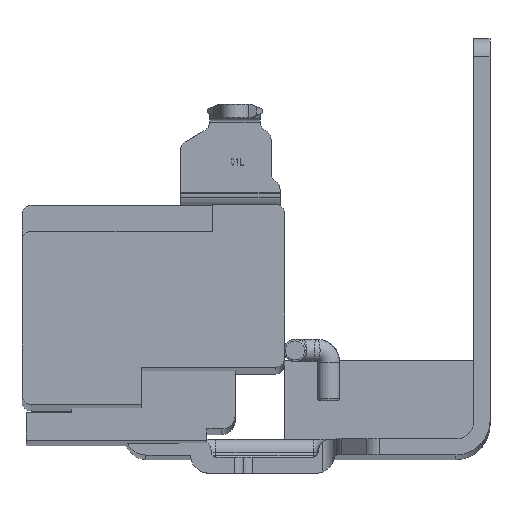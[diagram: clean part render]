
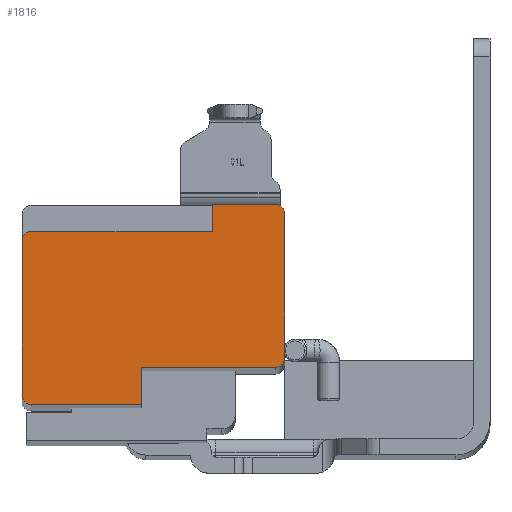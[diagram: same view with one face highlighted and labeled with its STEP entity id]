
A CAD part, top view. The second image highlights one B-rep face of the part: STEP entity #1816.
In plain terms, the highlighted planar face has unit normal (0, 0, 1).
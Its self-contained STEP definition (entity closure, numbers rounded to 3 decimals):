
#74 = CIRCLE ( 'NONE', #7324, 1. ) ;
#187 = VERTEX_POINT ( 'NONE', #2327 ) ;
#189 = ORIENTED_EDGE ( 'NONE', *, *, #1310, .F. ) ;
#339 = EDGE_CURVE ( 'NONE', #8444, #3108, #6499, .T. ) ;
#372 = LINE ( 'NONE', #1967, #2270 ) ;
#449 = CARTESIAN_POINT ( 'NONE',  ( -70.91, 0.03, 394.3 ) ) ;
#471 = ORIENTED_EDGE ( 'NONE', *, *, #5292, .F. ) ;
#530 = DIRECTION ( 'NONE',  ( 1., 0., 0. ) ) ;
#966 = ORIENTED_EDGE ( 'NONE', *, *, #339, .F. ) ;
#1105 = CARTESIAN_POINT ( 'NONE',  ( -40.3, -18.1, 394.3 ) ) ;
#1113 = LINE ( 'NONE', #1524, #6656 ) ;
#1177 = DIRECTION ( 'NONE',  ( -1., 0., 0. ) ) ;
#1242 = DIRECTION ( 'NONE',  ( 0., 1., 0. ) ) ;
#1310 = EDGE_CURVE ( 'NONE', #5520, #8444, #3599, .T. ) ;
#1349 = ORIENTED_EDGE ( 'NONE', *, *, #8541, .F. ) ;
#1459 = CARTESIAN_POINT ( 'NONE',  ( -71.88, 0., 394.3 ) ) ;
#1524 = CARTESIAN_POINT ( 'NONE',  ( -42.85, 0., 394.3 ) ) ;
#1628 = CARTESIAN_POINT ( 'NONE',  ( -70.88, -17.1, 394.3 ) ) ;
#1816 = ADVANCED_FACE ( 'NONE', ( #3361 ), #6243, .T. ) ;
#1967 = CARTESIAN_POINT ( 'NONE',  ( -50.85, 1., 394.3 ) ) ;
#1995 = CIRCLE ( 'NONE', #2825, 1. ) ;
#2000 = ORIENTED_EDGE ( 'NONE', *, *, #4674, .T. ) ;
#2016 = CARTESIAN_POINT ( 'NONE',  ( -71.88, 0.03, 394.3 ) ) ;
#2092 = EDGE_LOOP ( 'NONE', ( #5770, #2602, #9387, #4239, #2516, #471, #2000, #966, #189, #9205, #1349, #4884 ) ) ;
#2270 = VECTOR ( 'NONE', #1242, 1000. ) ;
#2327 = CARTESIAN_POINT ( 'NONE',  ( -42.85, -13., 394.3 ) ) ;
#2354 = DIRECTION ( 'NONE',  ( -1., 0., 0. ) ) ;
#2424 = CARTESIAN_POINT ( 'NONE',  ( -43.85, 4., 394.3 ) ) ;
#2442 = EDGE_CURVE ( 'NONE', #8313, #2954, #1995, .T. ) ;
#2516 = ORIENTED_EDGE ( 'NONE', *, *, #4714, .T. ) ;
#2602 = ORIENTED_EDGE ( 'NONE', *, *, #4174, .F. ) ;
#2640 = CARTESIAN_POINT ( 'NONE',  ( -40.3, 0., 394.3 ) ) ;
#2660 = DIRECTION ( 'NONE',  ( 0., 0., -1. ) ) ;
#2825 = AXIS2_PLACEMENT_3D ( 'NONE', #6989, #2660, #7748 ) ;
#2954 = VERTEX_POINT ( 'NONE', #8410 ) ;
#2995 = EDGE_CURVE ( 'NONE', #187, #5520, #74, .T. ) ;
#3060 = VECTOR ( 'NONE', #6527, 1000. ) ;
#3108 = VERTEX_POINT ( 'NONE', #7888 ) ;
#3293 = VECTOR ( 'NONE', #5434, 1000. ) ;
#3331 = EDGE_CURVE ( 'NONE', #8901, #7214, #5009, .T. ) ;
#3361 = FACE_OUTER_BOUND ( 'NONE', #2092, .T. ) ;
#3523 = VERTEX_POINT ( 'NONE', #4578 ) ;
#3599 = LINE ( 'NONE', #8797, #8920 ) ;
#3738 = EDGE_CURVE ( 'NONE', #8405, #8313, #3749, .T. ) ;
#3749 = LINE ( 'NONE', #8479, #7388 ) ;
#3821 = CARTESIAN_POINT ( 'NONE',  ( -50.85, 1., 394.3 ) ) ;
#3827 = VERTEX_POINT ( 'NONE', #6410 ) ;
#3855 = LINE ( 'NONE', #8046, #5551 ) ;
#4085 = DIRECTION ( 'NONE',  ( 0., 0., 1. ) ) ;
#4123 = DIRECTION ( 'NONE',  ( 0., 0., -1. ) ) ;
#4174 = EDGE_CURVE ( 'NONE', #7832, #8405, #372, .T. ) ;
#4239 = ORIENTED_EDGE ( 'NONE', *, *, #3331, .F. ) ;
#4440 = DIRECTION ( 'NONE',  ( 0., -1., 0. ) ) ;
#4455 = EDGE_CURVE ( 'NONE', #7832, #7214, #3855, .T. ) ;
#4567 = VECTOR ( 'NONE', #7426, 1000. ) ;
#4578 = CARTESIAN_POINT ( 'NONE',  ( -70.88, -18.1, 394.3 ) ) ;
#4674 = EDGE_CURVE ( 'NONE', #3523, #3108, #8840, .T. ) ;
#4714 = EDGE_CURVE ( 'NONE', #8901, #3827, #6917, .T. ) ;
#4884 = ORIENTED_EDGE ( 'NONE', *, *, #2442, .F. ) ;
#5009 = CIRCLE ( 'NONE', #5185, 0.97 ) ;
#5072 = DIRECTION ( 'NONE',  ( -1., 0., 0. ) ) ;
#5185 = AXIS2_PLACEMENT_3D ( 'NONE', #449, #5493, #1177 ) ;
#5292 = EDGE_CURVE ( 'NONE', #3523, #3827, #6358, .T. ) ;
#5434 = DIRECTION ( 'NONE',  ( 1., 0., 0. ) ) ;
#5493 = DIRECTION ( 'NONE',  ( 0., 0., -1. ) ) ;
#5520 = VERTEX_POINT ( 'NONE', #5579 ) ;
#5551 = VECTOR ( 'NONE', #5875, 1000. ) ;
#5579 = CARTESIAN_POINT ( 'NONE',  ( -43.85, -14., 394.3 ) ) ;
#5770 = ORIENTED_EDGE ( 'NONE', *, *, #3738, .F. ) ;
#5875 = DIRECTION ( 'NONE',  ( -1., 0., 0. ) ) ;
#6243 = PLANE ( 'NONE',  #6891 ) ;
#6358 = CIRCLE ( 'NONE', #6552, 1. ) ;
#6410 = CARTESIAN_POINT ( 'NONE',  ( -71.88, -17.1, 394.3 ) ) ;
#6499 = LINE ( 'NONE', #9334, #4567 ) ;
#6527 = DIRECTION ( 'NONE',  ( 0., -1., 0. ) ) ;
#6552 = AXIS2_PLACEMENT_3D ( 'NONE', #1628, #6710, #2354 ) ;
#6656 = VECTOR ( 'NONE', #4440, 1000. ) ;
#6710 = DIRECTION ( 'NONE',  ( 0., 0., -1. ) ) ;
#6891 = AXIS2_PLACEMENT_3D ( 'NONE', #2640, #4085, #9153 ) ;
#6917 = LINE ( 'NONE', #1459, #3060 ) ;
#6989 = CARTESIAN_POINT ( 'NONE',  ( -43.85, 3., 394.3 ) ) ;
#7171 = CARTESIAN_POINT ( 'NONE',  ( -58.68, -14., 394.3 ) ) ;
#7214 = VERTEX_POINT ( 'NONE', #8087 ) ;
#7324 = AXIS2_PLACEMENT_3D ( 'NONE', #8477, #4123, #9201 ) ;
#7388 = VECTOR ( 'NONE', #530, 1000. ) ;
#7426 = DIRECTION ( 'NONE',  ( 0., -1., 0. ) ) ;
#7748 = DIRECTION ( 'NONE',  ( -1., 0., 0. ) ) ;
#7786 = CARTESIAN_POINT ( 'NONE',  ( -50.85, 4., 394.3 ) ) ;
#7832 = VERTEX_POINT ( 'NONE', #3821 ) ;
#7888 = CARTESIAN_POINT ( 'NONE',  ( -58.68, -18.1, 394.3 ) ) ;
#8046 = CARTESIAN_POINT ( 'NONE',  ( -41.05, 1., 394.3 ) ) ;
#8087 = CARTESIAN_POINT ( 'NONE',  ( -70.91, 1., 394.3 ) ) ;
#8313 = VERTEX_POINT ( 'NONE', #2424 ) ;
#8405 = VERTEX_POINT ( 'NONE', #7786 ) ;
#8410 = CARTESIAN_POINT ( 'NONE',  ( -42.85, 3., 394.3 ) ) ;
#8444 = VERTEX_POINT ( 'NONE', #7171 ) ;
#8477 = CARTESIAN_POINT ( 'NONE',  ( -43.85, -13., 394.3 ) ) ;
#8479 = CARTESIAN_POINT ( 'NONE',  ( -48.65, 4., 394.3 ) ) ;
#8541 = EDGE_CURVE ( 'NONE', #2954, #187, #1113, .T. ) ;
#8797 = CARTESIAN_POINT ( 'NONE',  ( -40.3, -14., 394.3 ) ) ;
#8840 = LINE ( 'NONE', #1105, #3293 ) ;
#8901 = VERTEX_POINT ( 'NONE', #2016 ) ;
#8920 = VECTOR ( 'NONE', #5072, 1000. ) ;
#9153 = DIRECTION ( 'NONE',  ( -1., 0., 0. ) ) ;
#9201 = DIRECTION ( 'NONE',  ( -1., 0., 0. ) ) ;
#9205 = ORIENTED_EDGE ( 'NONE', *, *, #2995, .F. ) ;
#9334 = CARTESIAN_POINT ( 'NONE',  ( -58.68, 0., 394.3 ) ) ;
#9387 = ORIENTED_EDGE ( 'NONE', *, *, #4455, .T. ) ;
